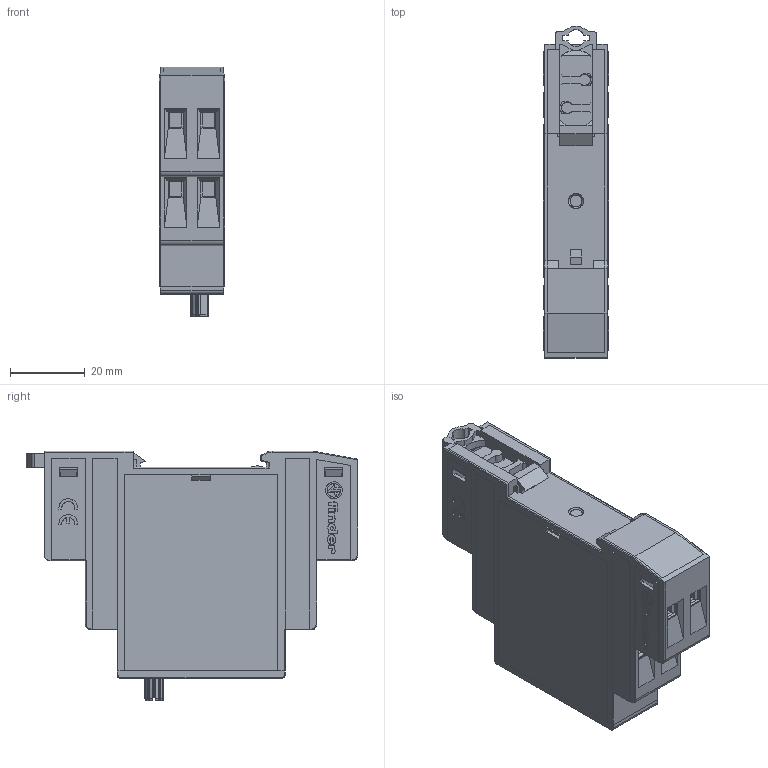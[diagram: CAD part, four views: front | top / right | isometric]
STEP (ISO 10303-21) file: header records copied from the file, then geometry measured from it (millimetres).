
FILE_DESCRIPTION(('STEP AP214'),'2;1');
FILE_NAME('19_41---catalogo_OK.stp','2011-02-23T16:32:56',(''),(''),'2007.1.106','THINKDESIGN','');
FILE_SCHEMA(('AUTOMOTIVE_DESIGN'));
Products named in the file (1): None
Bounding box: 17.5 x 88.85 x 66.8 mm (x, y, z)
Surface area: 20894.4 mm2 (no closed solid volume)
Topology: 0 solids, 0 shells, 1420 faces, 9002 edges, 8984 vertices
Faces by surface type: plane 1110, bspline 156, cylinder 154
Full cylindrical faces by diameter (mm): 3 x10, 5 x9
Entity records: 91249 total; most frequent: CARTESIAN_POINT 28690, DIRECTION 10781, COMPOSITE_CURVE_SEGMENT 8998, TRIMMED_CURVE 7893, VECTOR 7597, LINE 7597, AXIS2_PLACEMENT_3D 1592, OUTER_BOUNDARY_CURVE 1420
